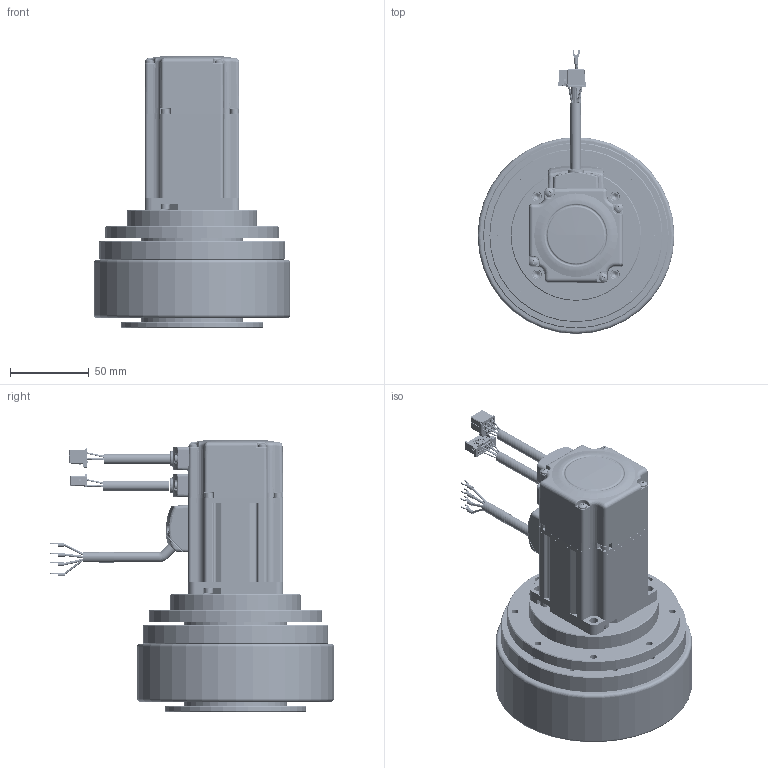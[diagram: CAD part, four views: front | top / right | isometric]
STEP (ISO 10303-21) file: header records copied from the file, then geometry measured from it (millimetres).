
FILE_DESCRIPTION((''),'2;1');
FILE_NAME('MSD125-020-30GEL-N_ASM','2026-05-22T14:42:28',('MS28159'),(''),'CREO PARAMETRIC BY PTC INC, 2018100','CREO PARAMETRIC BY PTC INC, 2018100','');
FILE_SCHEMA(('CONFIG_CONTROL_DESIGN'));
Length unit declared in the file: millimetre
Products named in the file (61): SINGLE_COIL_LOCK_WASHERS_LIGHT_; HEXAGON_SOCKET_HEAD_CAP_SCREWS_; AEQ-95-H37-W125_1; AEQ-095C-L2-14-1_X2_6A21578BFF0; AEQ-095C-L2-14-1-H37-W125_ASM_1_ASM; ASM0008_ASM_1_ASM; SM0601-SL-KCY-NNV_ASM_1_ASM; 4294404000400-7-SOLID1; 4613108100087_A0-1_4332101206_2; _54650001; _97460001; 4634140203189-1-SOLID2; NONE-10899; 4294404000400-5-SOLID1; 4294404000400-1-SOLID1; 4613103300194_A0-1_4219130000_2; AGV-1-SOLID10001; AGV-4-SOLID10001; NONE-50590; _560150001; NONE-59850; _635270001; _718080001; 4294440100155-6-SOLID1; 4613103300194_A0-1_4219120000_2; AGV-3-SOLID10001; 4294404000400-6-SOLID1; 4219121500052-1-SOLID1; 4294404000400-2-SOLID1; NONE-92612; 4294440100155-2-SOLID1; 4294440100155-4-SOLID1; 4613103300194_A0-1_42944-102876; 4294440100155-9-SOLID1; 4613103300194_A0-1_3698154000_2; 4294404000418-2-SOLID1; 4634140203189-1-SOLID1; NONE-117672; 4294404000418-3-SOLID1; 4294404000400-8-SOLID1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
Assembly tree (82 placements, depth 5):
  MSD125-020-30GEL-N_ASM
    SM0601-SL-KCY-NNV_ASM_1_ASM
      ASM0008_ASM_1_ASM
        AEQ-095C-L2-14-1-H37-W125_ASM_1_ASM
          SINGLE_COIL_LOCK_WASHERS_LIGHT_  x12
          HEXAGON_SOCKET_HEAD_CAP_SCREWS_  x12
          AEQ-95-H37-W125_1
          AEQ-095C-L2-14-1_X2_6A21578BFF0
    SM0601-EL-KCY-NNV_ASM
      4611170000917_A0_ASM
        4294404000400-7-SOLID1
        4613108100087_A0-1_4332101206_2
        _54650001
        _97460001
        4634140203189-1-SOLID2
        NONE-10899
        4294404000400-5-SOLID1
        4294404000400-1-SOLID1
        4613103300194_A0-1_4219130000_2
        AGV-1-SOLID10001
        AGV-4-SOLID10001
        NONE-50590
        _560150001
        NONE-59850
        _635270001
        _718080001
        4294440100155-6-SOLID1
        4613103300194_A0-1_4219120000_2
        AGV-3-SOLID10001
        4294404000400-6-SOLID1
        4219121500052-1-SOLID1
        4294404000400-2-SOLID1
        NONE-92612
        4294440100155-2-SOLID1
        4294440100155-4-SOLID1
        4613103300194_A0-1_42944-102876
        4294440100155-9-SOLID1
        4613103300194_A0-1_3698154000_2
        4294404000418-2-SOLID1
        4634140203189-1-SOLID1
        NONE-117672
        4294404000418-3-SOLID1
        4294404000400-8-SOLID1
        _1347540001
        4219121300897-1-SOLID1
        4219121500052-1-SOLID2
        4294440100155-3-SOLID1
        _1419920001
        4613103300194_A0-1_362741000004
        NONE-143593
        4294404000418-1-SOLID1
        4294404000400-4-SOLID1
        4294404000418-4-SOLID1
        4294440100155-7-SOLID1
        4294404000400-3-SOLID1
        4294440100155-5-SOLID1
        4294440100155-8-SOLID1
        AGV-2-SOLID10001
        4331101000117-1-SOLID1
        4718405009182-1-SOLID1
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Bounding box: 125 x 180.28 x 173 mm (x, y, z)
Volume: 892587.4 mm3; surface area: 223292.6 mm2
Topology: 77 solids, 83 shells, 4596 faces, 11636 edges, 7233 vertices
Faces by surface type: plane 1931, cylinder 1224, cone 553, torus 339, bspline 246, extrusion 169, sphere 134
Entity records: 247413 total; most frequent: CARTESIAN_POINT 146314, ORIENTED_EDGE 21166, DIRECTION 20176, EDGE_CURVE 10583, AXIS2_PLACEMENT_3D 7263, VERTEX_POINT 6694, VECTOR 5650, LINE 5481
